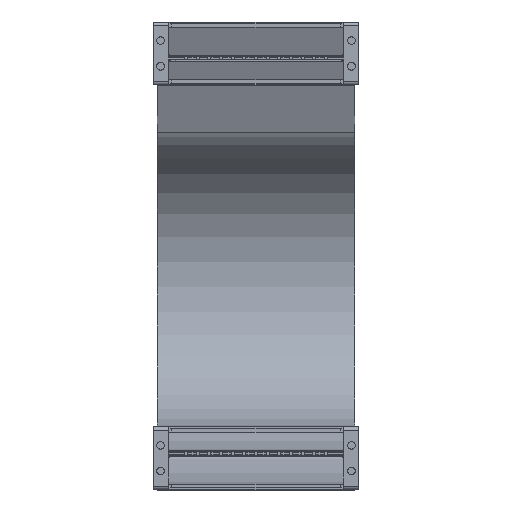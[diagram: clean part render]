
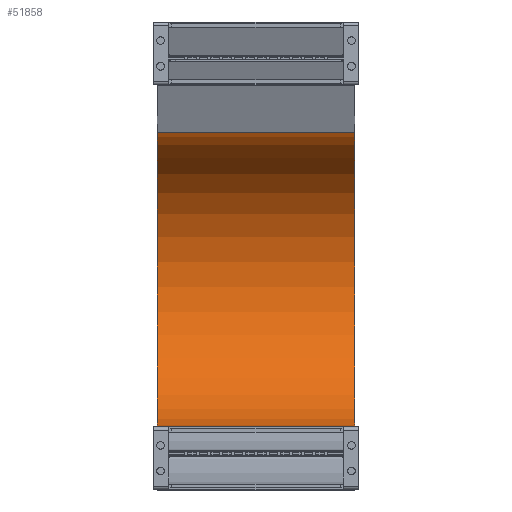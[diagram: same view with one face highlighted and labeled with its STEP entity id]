
A CAD part, top view. The second image highlights one B-rep face of the part: STEP entity #51858.
In plain terms, the highlighted cylindrical face has radius 127 mm (diameter 254 mm), a partial arc.
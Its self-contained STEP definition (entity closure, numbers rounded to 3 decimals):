
#51010=DIRECTION('',(-1.,0.,0.));
#51011=VECTOR('',#51010,170.);
#51012=CARTESIAN_POINT('',(85.,54.,-500.));
#51013=LINE('',#51012,#51011);
#51024=DIRECTION('',(-1.,0.,0.));
#51025=VECTOR('',#51024,170.);
#51026=CARTESIAN_POINT('',(85.,307.393,-512.406));
#51027=LINE('',#51026,#51025);
#51031=CARTESIAN_POINT('',(85.,181.,-500.));
#51032=DIRECTION('',(-1.,0.,0.));
#51033=DIRECTION('',(0.,0.995,-0.098));
#51034=AXIS2_PLACEMENT_3D('',#51031,#51032,#51033);
#51110=CARTESIAN_POINT('',(-85.,181.,-500.));
#51111=DIRECTION('',(-1.,0.,0.));
#51112=DIRECTION('',(0.,0.995,-0.098));
#51113=AXIS2_PLACEMENT_3D('',#51110,#51111,#51112);
#51232=CARTESIAN_POINT('',(85.,307.393,-512.406));
#51233=CARTESIAN_POINT('',(-85.,307.393,-512.406));
#51234=VERTEX_POINT('',#51232);
#51235=VERTEX_POINT('',#51233);
#51256=CARTESIAN_POINT('',(85.,54.,-500.));
#51257=CARTESIAN_POINT('',(-85.,54.,-500.));
#51258=VERTEX_POINT('',#51256);
#51259=VERTEX_POINT('',#51257);
#51844=CARTESIAN_POINT('',(1.,181.,-500.));
#51845=DIRECTION('',(-1.,0.,0.));
#51846=DIRECTION('',(0.,-0.995,0.098));
#51847=AXIS2_PLACEMENT_3D('',#51844,#51845,#51846);
#51848=CYLINDRICAL_SURFACE('',#51847,127.);
#51850=ORIENTED_EDGE('',*,*,#51849,.F.);
#51852=ORIENTED_EDGE('',*,*,#51851,.T.);
#51853=ORIENTED_EDGE('',*,*,#51827,.T.);
#51855=ORIENTED_EDGE('',*,*,#51854,.F.);
#51856=EDGE_LOOP('',(#51850,#51852,#51853,#51855));
#51857=FACE_OUTER_BOUND('',#51856,.F.);
#51035=CIRCLE('',#51034,127.);
#51114=CIRCLE('',#51113,127.);
#51827=EDGE_CURVE('',#51258,#51259,#51013,.T.);
#51849=EDGE_CURVE('',#51234,#51235,#51027,.T.);
#51851=EDGE_CURVE('',#51234,#51258,#51035,.T.);
#51854=EDGE_CURVE('',#51235,#51259,#51114,.T.);
#51858=ADVANCED_FACE('',(#51857),#51848,.F.);
